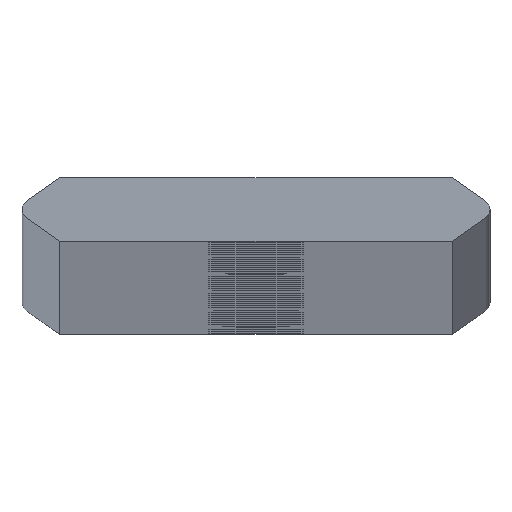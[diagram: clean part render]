
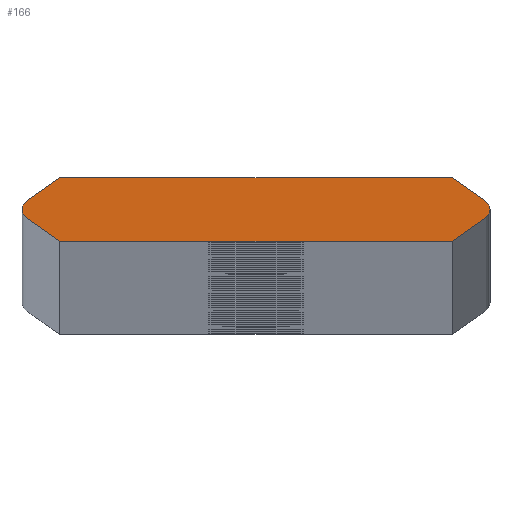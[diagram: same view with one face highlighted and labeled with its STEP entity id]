
A CAD part, top view. The second image highlights one B-rep face of the part: STEP entity #166.
In plain terms, the highlighted planar face has unit normal (0, 0, 1).
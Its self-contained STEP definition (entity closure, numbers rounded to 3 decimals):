
#166=ADVANCED_FACE('',(#358),#359,.T.);
#358=FACE_OUTER_BOUND('',#646,.T.);
#359=PLANE('',#647);
#646=EDGE_LOOP('',(#1389,#1390,#1391,#1392,#1393,#1394,#1395,#1396,#1397,#1398));
#647=AXIS2_PLACEMENT_3D('',#1399,#1400,#1401);
#1389=ORIENTED_EDGE('',*,*,#1645,.T.);
#1390=ORIENTED_EDGE('',*,*,#1914,.T.);
#1391=ORIENTED_EDGE('',*,*,#1915,.F.);
#1392=ORIENTED_EDGE('',*,*,#1916,.F.);
#1393=ORIENTED_EDGE('',*,*,#1917,.F.);
#1394=ORIENTED_EDGE('',*,*,#1641,.T.);
#1395=ORIENTED_EDGE('',*,*,#1918,.T.);
#1396=ORIENTED_EDGE('',*,*,#1919,.F.);
#1397=ORIENTED_EDGE('',*,*,#1920,.F.);
#1398=ORIENTED_EDGE('',*,*,#1921,.F.);
#1399=CARTESIAN_POINT('',(0.,0.,3956.0));
#1400=DIRECTION('',(0.0,0.0,1.0));
#1401=DIRECTION('',(1.0,0.0,0.0));
#1641=EDGE_CURVE('',#1937,#1934,#1938,.T.);
#1645=EDGE_CURVE('',#1945,#1942,#1946,.T.);
#1914=EDGE_CURVE('',#1942,#2392,#2394,.T.);
#1915=EDGE_CURVE('',#2395,#2392,#2396,.T.);
#1916=EDGE_CURVE('',#2397,#2395,#2398,.T.);
#1917=EDGE_CURVE('',#1937,#2397,#2399,.T.);
#1918=EDGE_CURVE('',#1934,#2400,#2401,.T.);
#1919=EDGE_CURVE('',#2402,#2400,#2403,.T.);
#1920=EDGE_CURVE('',#2404,#2402,#2405,.T.);
#1921=EDGE_CURVE('',#1945,#2404,#2406,.T.);
#1934=VERTEX_POINT('',#2424);
#1937=VERTEX_POINT('',#2428);
#1938=CIRCLE('',#2429,0.76);
#1942=VERTEX_POINT('',#2434);
#1945=VERTEX_POINT('',#2438);
#1946=CIRCLE('',#2439,0.76);
#2392=VERTEX_POINT('',#2974);
#2394=CIRCLE('',#2977,0.76);
#2395=VERTEX_POINT('',#2978);
#2396=LINE('',#2979,#2980);
#2397=VERTEX_POINT('',#2981);
#2398=LINE('',#2982,#2983);
#2399=LINE('',#2984,#2985);
#2400=VERTEX_POINT('',#2986);
#2401=CIRCLE('',#2987,0.76);
#2402=VERTEX_POINT('',#2988);
#2403=LINE('',#2989,#2990);
#2404=VERTEX_POINT('',#2991);
#2405=LINE('',#2992,#2993);
#2406=LINE('',#2994,#2995);
#2424=CARTESIAN_POINT('',(17.34,0.,3956.0));
#2428=CARTESIAN_POINT('',(17.019,-0.62,3956.0));
#2429=AXIS2_PLACEMENT_3D('',#3025,#3026,#3027);
#2434=CARTESIAN_POINT('',(-17.34,0.,3956.0));
#2438=CARTESIAN_POINT('',(-17.019,0.62,3956.0));
#2439=AXIS2_PLACEMENT_3D('',#3033,#3034,#3035);
#2974=CARTESIAN_POINT('',(-17.019,-0.62,3956.0));
#2977=AXIS2_PLACEMENT_3D('',#3660,#3661,#3662);
#2978=CARTESIAN_POINT('',(-14.549,-2.35,3956.0));
#2979=CARTESIAN_POINT('',(-17.905,0.,3956.0));
#2980=VECTOR('',#3663,1.0);
#2981=CARTESIAN_POINT('',(14.549,-2.35,3956.0));
#2982=CARTESIAN_POINT('',(14.549,-2.35,3956.0));
#2983=VECTOR('',#3664,1.0);
#2984=CARTESIAN_POINT('',(17.905,0.0,3956.0));
#2985=VECTOR('',#3665,1.0);
#2986=CARTESIAN_POINT('',(17.019,0.62,3956.0));
#2987=AXIS2_PLACEMENT_3D('',#3666,#3667,#3668);
#2988=CARTESIAN_POINT('',(14.549,2.35,3956.0));
#2989=CARTESIAN_POINT('',(17.905,0.0,3956.0));
#2990=VECTOR('',#3669,1.0);
#2991=CARTESIAN_POINT('',(-14.549,2.35,3956.0));
#2992=CARTESIAN_POINT('',(-14.549,2.35,3956.0));
#2993=VECTOR('',#3670,1.0);
#2994=CARTESIAN_POINT('',(-17.905,0.,3956.0));
#2995=VECTOR('',#3671,1.0);
#3025=CARTESIAN_POINT('',(16.58,0.0,3956.0));
#3026=DIRECTION('',(0.0,0.0,1.0));
#3027=DIRECTION('',(1.0,0.0,0.0));
#3033=CARTESIAN_POINT('',(-16.58,0.,3956.0));
#3034=DIRECTION('',(0.0,0.0,1.0));
#3035=DIRECTION('',(-1.0,0.,0.0));
#3660=CARTESIAN_POINT('',(-16.58,0.,3956.0));
#3661=DIRECTION('',(0.0,0.0,1.0));
#3662=DIRECTION('',(-1.0,0.,0.0));
#3663=DIRECTION('',(-0.819,0.574,0.0));
#3664=DIRECTION('',(-1.0,0.,0.0));
#3665=DIRECTION('',(-0.819,-0.574,0.0));
#3666=CARTESIAN_POINT('',(16.58,0.0,3956.0));
#3667=DIRECTION('',(0.0,0.0,1.0));
#3668=DIRECTION('',(1.0,0.0,0.0));
#3669=DIRECTION('',(0.819,-0.574,0.0));
#3670=DIRECTION('',(1.0,0.,0.0));
#3671=DIRECTION('',(0.819,0.574,0.0));
